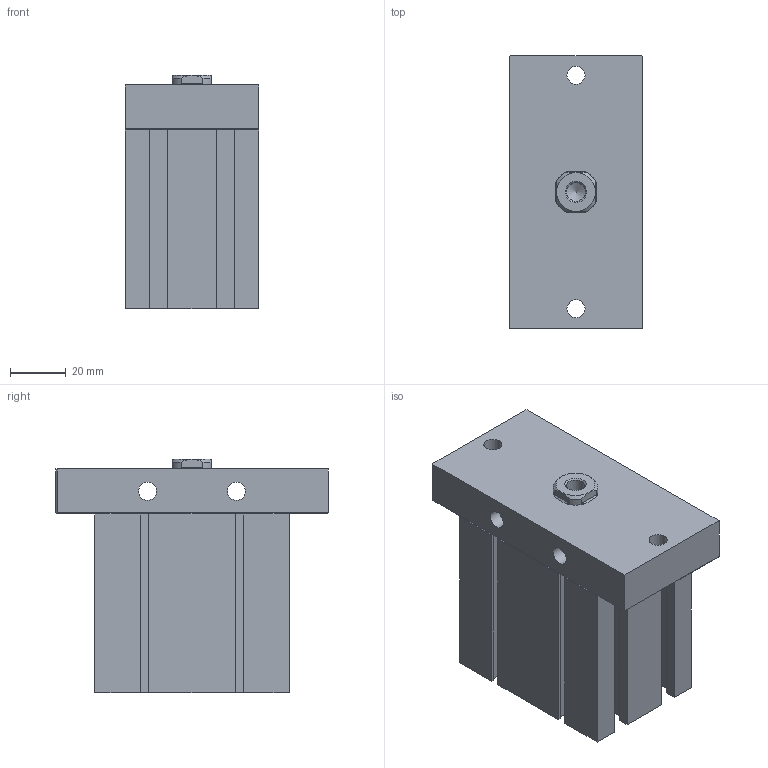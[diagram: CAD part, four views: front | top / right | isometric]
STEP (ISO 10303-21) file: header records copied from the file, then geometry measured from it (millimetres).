
FILE_DESCRIPTION((''),'2;1');
FILE_NAME('J:\3D電子目錄\氣缸\ND\ND\ND40-F\ND40x30-F.stp','2008-03-12T16:39:07',('66-2f-008'),(''),'Autodesk Inventor 11','Autodesk Inventor 11','');
FILE_SCHEMA(('AUTOMOTIVE_DESIGN { 1 0 10303 214 1 1 1 1 }'));
Length unit declared in the file: millimetre
Products named in the file (1): ND40-F
Bounding box: 48 x 98 x 84 mm (x, y, z)
Volume: 260856.4 mm3; surface area: 43246.8 mm2
Topology: 2 solids, 2 shells, 139 faces, 351 edges, 225 vertices
Faces by surface type: plane 99, bspline 16, cone 12, cylinder 11, torus 1
Full cylindrical faces by diameter (mm): 2.2 x2, 6.5 x2, 29 x1, 42 x1, 44.5 x1
Entity records: 4102 total; most frequent: CARTESIAN_POINT 908, ORIENTED_EDGE 634, DIRECTION 618, EDGE_CURVE 317, VECTOR 248, LINE 248, VERTEX_POINT 219, AXIS2_PLACEMENT_3D 185
